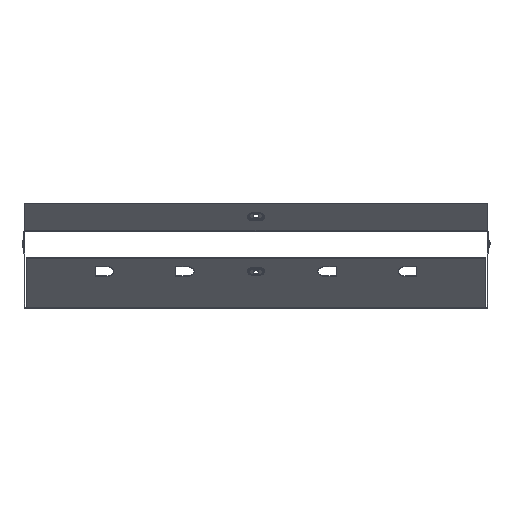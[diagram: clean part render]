
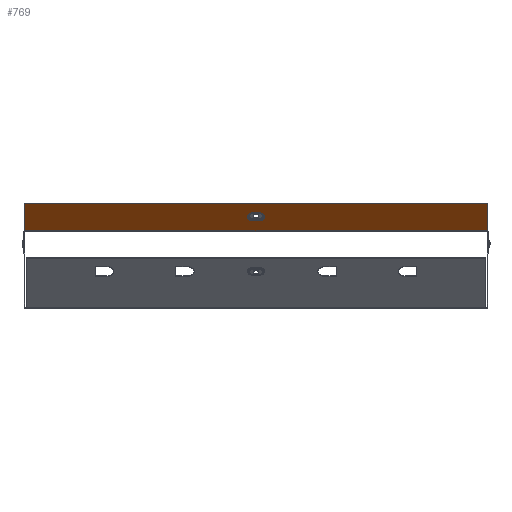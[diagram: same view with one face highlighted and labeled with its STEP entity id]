
A CAD part, top view. The second image highlights one B-rep face of the part: STEP entity #769.
In plain terms, the highlighted planar face has unit normal (0, -0.707, 0.707).
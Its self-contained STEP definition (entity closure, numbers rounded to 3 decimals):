
#447 = DIRECTION ( 'NONE',  ( 0., -0.707, -0.707 ) ) ;
#769 = ADVANCED_FACE ( 'NONE', ( #4089, #14766 ), #2380, .F. ) ;
#823 = VERTEX_POINT ( 'NONE', #8196 ) ;
#1009 = LINE ( 'NONE', #1156, #5561 ) ;
#1079 = DIRECTION ( 'NONE',  ( 0., -0.707, -0.707 ) ) ;
#1156 = CARTESIAN_POINT ( 'NONE',  ( -299., -0.566, 63.066 ) ) ;
#1563 = VERTEX_POINT ( 'NONE', #5142 ) ;
#1870 = EDGE_LOOP ( 'NONE', ( #13944, #10975, #13457, #1998 ) ) ;
#1998 = ORIENTED_EDGE ( 'NONE', *, *, #4611, .F. ) ;
#2018 = CARTESIAN_POINT ( 'NONE',  ( -3.5, 12.446, 76.078 ) ) ;
#2194 = CARTESIAN_POINT ( 'NONE',  ( -299., -0.273, 63.359 ) ) ;
#2277 = VERTEX_POINT ( 'NONE', #10040 ) ;
#2317 = CARTESIAN_POINT ( 'NONE',  ( 299., -0.566, 63.066 ) ) ;
#2380 = PLANE ( 'NONE',  #6950 ) ;
#2430 = CARTESIAN_POINT ( 'NONE',  ( 299., -0.566, 63.066 ) ) ;
#3296 = EDGE_CURVE ( 'NONE', #8542, #13812, #1009, .T. ) ;
#3358 = DIRECTION ( 'NONE',  ( 0., 0.707, 0.707 ) ) ;
#3373 = EDGE_CURVE ( 'NONE', #2277, #4754, #5033, .T. ) ;
#3817 = EDGE_LOOP ( 'NONE', ( #12662, #13856, #13426, #7476 ) ) ;
#3927 = DIRECTION ( 'NONE',  ( 0., -0.707, 0.707 ) ) ;
#4089 = FACE_BOUND ( 'NONE', #1870, .T. ) ;
#4241 = CARTESIAN_POINT ( 'NONE',  ( 3.5, 23.192, 86.823 ) ) ;
#4593 = DIRECTION ( 'NONE',  ( 0., 0.707, -0.707 ) ) ;
#4611 = EDGE_CURVE ( 'NONE', #12092, #1563, #10402, .T. ) ;
#4656 = VECTOR ( 'NONE', #9716, 1000. ) ;
#4754 = VERTEX_POINT ( 'NONE', #6271 ) ;
#5014 = VECTOR ( 'NONE', #10683, 1000. ) ;
#5033 = LINE ( 'NONE', #2430, #12239 ) ;
#5045 = CIRCLE ( 'NONE', #14372, 7.598 ) ;
#5142 = CARTESIAN_POINT ( 'NONE',  ( -3.5, 23.192, 86.823 ) ) ;
#5535 = DIRECTION ( 'NONE',  ( -1., 0., 0. ) ) ;
#5556 = EDGE_CURVE ( 'NONE', #7211, #823, #13511, .T. ) ;
#5561 = VECTOR ( 'NONE', #11559, 1000. ) ;
#5701 = DIRECTION ( 'NONE',  ( 0., -0.707, 0.707 ) ) ;
#6028 = CARTESIAN_POINT ( 'NONE',  ( -3.5, 23.192, 86.823 ) ) ;
#6271 = CARTESIAN_POINT ( 'NONE',  ( 299., -0.273, 63.359 ) ) ;
#6315 = CARTESIAN_POINT ( 'NONE',  ( -299., 34.79, 98.421 ) ) ;
#6950 = AXIS2_PLACEMENT_3D ( 'NONE', #2317, #4593, #3358 ) ;
#7211 = VERTEX_POINT ( 'NONE', #10548 ) ;
#7476 = ORIENTED_EDGE ( 'NONE', *, *, #9365, .T. ) ;
#7762 = DIRECTION ( 'NONE',  ( 1., 0., 0. ) ) ;
#8196 = CARTESIAN_POINT ( 'NONE',  ( 3.5, 12.446, 76.078 ) ) ;
#8542 = VERTEX_POINT ( 'NONE', #6315 ) ;
#9187 = EDGE_CURVE ( 'NONE', #823, #12092, #11376, .T. ) ;
#9277 = LINE ( 'NONE', #13262, #4656 ) ;
#9365 = EDGE_CURVE ( 'NONE', #2277, #8542, #15002, .T. ) ;
#9716 = DIRECTION ( 'NONE',  ( -1., 0., 0. ) ) ;
#9837 = VECTOR ( 'NONE', #7762, 1000. ) ;
#10040 = CARTESIAN_POINT ( 'NONE',  ( 299., 34.79, 98.421 ) ) ;
#10386 = EDGE_CURVE ( 'NONE', #1563, #7211, #5045, .T. ) ;
#10402 = LINE ( 'NONE', #6028, #5014 ) ;
#10548 = CARTESIAN_POINT ( 'NONE',  ( -3.5, 12.446, 76.078 ) ) ;
#10683 = DIRECTION ( 'NONE',  ( -1., 0., 0. ) ) ;
#10975 = ORIENTED_EDGE ( 'NONE', *, *, #5556, .F. ) ;
#11376 = CIRCLE ( 'NONE', #14349, 7.598 ) ;
#11546 = VECTOR ( 'NONE', #5535, 1000. ) ;
#11559 = DIRECTION ( 'NONE',  ( 0., -0.707, -0.707 ) ) ;
#11587 = CARTESIAN_POINT ( 'NONE',  ( 299., 34.79, 98.421 ) ) ;
#12092 = VERTEX_POINT ( 'NONE', #4241 ) ;
#12239 = VECTOR ( 'NONE', #14238, 1000. ) ;
#12662 = ORIENTED_EDGE ( 'NONE', *, *, #3296, .T. ) ;
#13114 = EDGE_CURVE ( 'NONE', #4754, #13812, #9277, .T. ) ;
#13262 = CARTESIAN_POINT ( 'NONE',  ( 299., -0.273, 63.359 ) ) ;
#13426 = ORIENTED_EDGE ( 'NONE', *, *, #3373, .F. ) ;
#13457 = ORIENTED_EDGE ( 'NONE', *, *, #10386, .F. ) ;
#13511 = LINE ( 'NONE', #2018, #9837 ) ;
#13812 = VERTEX_POINT ( 'NONE', #2194 ) ;
#13854 = CARTESIAN_POINT ( 'NONE',  ( -3.5, 17.819, 81.45 ) ) ;
#13856 = ORIENTED_EDGE ( 'NONE', *, *, #13114, .F. ) ;
#13944 = ORIENTED_EDGE ( 'NONE', *, *, #9187, .F. ) ;
#14238 = DIRECTION ( 'NONE',  ( 0., -0.707, -0.707 ) ) ;
#14332 = CARTESIAN_POINT ( 'NONE',  ( 3.5, 17.819, 81.45 ) ) ;
#14349 = AXIS2_PLACEMENT_3D ( 'NONE', #14332, #3927, #447 ) ;
#14372 = AXIS2_PLACEMENT_3D ( 'NONE', #13854, #5701, #1079 ) ;
#14766 = FACE_OUTER_BOUND ( 'NONE', #3817, .T. ) ;
#15002 = LINE ( 'NONE', #11587, #11546 ) ;
